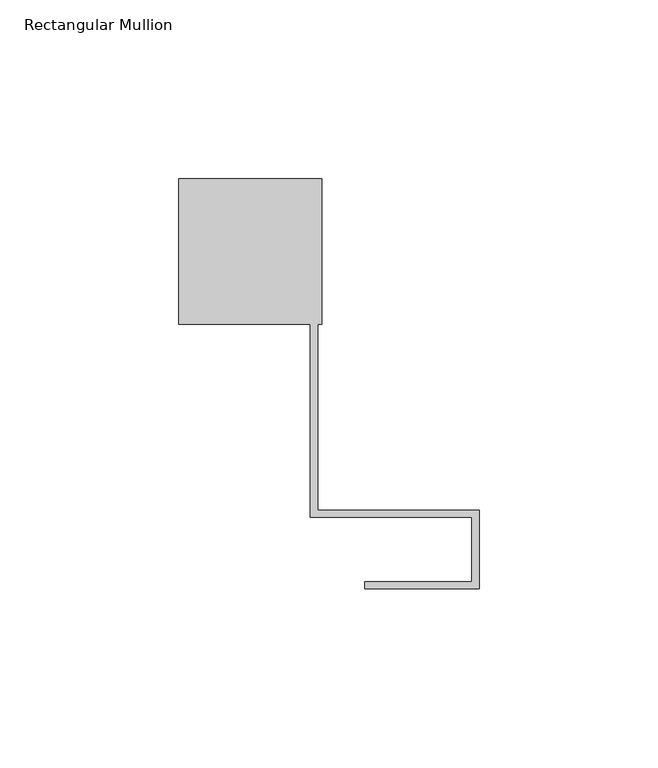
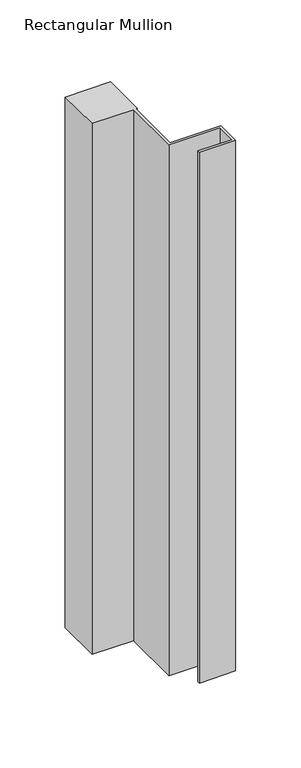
"""IFC4 building model written with IfcOpenShell, lengths in millimetres: member geometry, Rectangular Mullion : Danpal_TP_Bottom-Mullion."""

from ifc_helpers import new_model, si_unit, frame, origin, place, context, project, spatial, polyline, outline, extrude, source, transform, mapped, element, save


def rectangular_mullion_6eaf41a5(model_context):
    return source(origin(), model_context, "Body", "SweptSolid", [
        extrude(outline(polyline([(-84.0, 104.8981137), (-44.0, 104.8981137), (-44.0, 64.1981137), (-45.1833104, 64.1981137), (-45.1833104, 12.1981137), (0.0, 12.1981137), (0.0, -9.8018863), (-32.0, -9.8018863), (-32.0, -7.8018863), (-2.0, -7.8018863), (-2.0, 10.1981137), (-47.1833104, 10.1981137), (-47.1833104, 64.1981137), (-84.0, 64.1981137), (-84.0, 104.8981137)])), frame((0.0, 0.0, -495.0), z_axis=(0.0, 0.0, 1.0), x_axis=(1.0, 0.0, 0.0)), (0.0, 0.0, 1.0), 495.0),
    ])


if __name__ == "__main__":
    model = new_model("IFC4")
    model_context = context("Model", 3, world=origin())
    ifc_project = project(units=[si_unit("LENGTHUNIT", "METRE", prefix="MILLI")], contexts=[model_context])
    site = spatial("IfcSite", under=ifc_project)
    building = spatial("IfcBuilding", under=site)
    placement = place(None, origin())
    rectangular_mullion_shape = rectangular_mullion_6eaf41a5(model_context)
    element("IfcMember", 1, ObjectType="Rectangular Mullion : Danpal_TP_Bottom-Mullion", at=placement, inside=building, context=model_context, shape_type="MappedRepresentation", body=[
        mapped(rectangular_mullion_shape, transform((0.0, 0.0, 0.0), x_axis=(1.0, 0.0, 0.0), y_axis=(0.0, 1.0, 0.0), z_axis=(0.0, 0.0, 1.0))),
    ])
    save(model, "model.ifc")
